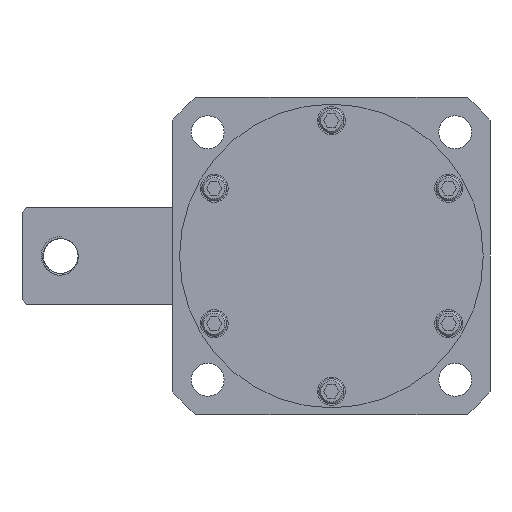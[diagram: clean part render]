
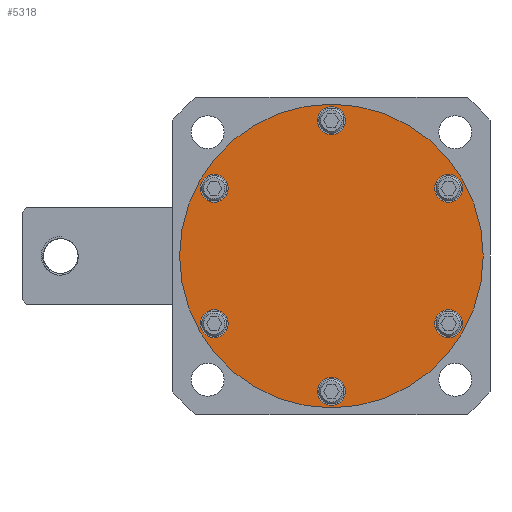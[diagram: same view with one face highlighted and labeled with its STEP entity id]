
A CAD part, left-side view. The second image highlights one B-rep face of the part: STEP entity #5318.
In plain terms, the highlighted planar face has unit normal (-1, 0, 0) as drawn and (0, 0, 1) by its records, which use the part's own axes.
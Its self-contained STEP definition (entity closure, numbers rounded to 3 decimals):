
#203=FACE_BOUND('',#760,.T.);
#204=FACE_BOUND('',#761,.T.);
#205=FACE_BOUND('',#762,.T.);
#206=FACE_BOUND('',#763,.T.);
#207=FACE_BOUND('',#764,.T.);
#208=FACE_BOUND('',#765,.T.);
#264=PLANE('',#5804);
#439=FACE_OUTER_BOUND('',#759,.T.);
#759=EDGE_LOOP('',(#4174,#4175));
#760=EDGE_LOOP('',(#4176));
#761=EDGE_LOOP('',(#4177));
#762=EDGE_LOOP('',(#4178));
#763=EDGE_LOOP('',(#4179));
#764=EDGE_LOOP('',(#4180));
#765=EDGE_LOOP('',(#4181));
#1055=CIRCLE('',#5805,39.25);
#1056=CIRCLE('',#5806,39.25);
#1057=CIRCLE('',#5807,3.6);
#1058=CIRCLE('',#5808,3.6);
#1059=CIRCLE('',#5809,3.6);
#1060=CIRCLE('',#5810,3.6);
#1061=CIRCLE('',#5811,3.6);
#1062=CIRCLE('',#5812,3.6);
#2322=VERTEX_POINT('',#22190);
#2323=VERTEX_POINT('',#22191);
#2324=VERTEX_POINT('',#22194);
#2325=VERTEX_POINT('',#22196);
#2326=VERTEX_POINT('',#22198);
#2327=VERTEX_POINT('',#22200);
#2328=VERTEX_POINT('',#22202);
#2329=VERTEX_POINT('',#22204);
#2991=EDGE_CURVE('',#2322,#2323,#1055,.T.);
#2992=EDGE_CURVE('',#2323,#2322,#1056,.T.);
#2993=EDGE_CURVE('',#2324,#2324,#1057,.T.);
#2994=EDGE_CURVE('',#2325,#2325,#1058,.T.);
#2995=EDGE_CURVE('',#2326,#2326,#1059,.T.);
#2996=EDGE_CURVE('',#2327,#2327,#1060,.T.);
#2997=EDGE_CURVE('',#2328,#2328,#1061,.T.);
#2998=EDGE_CURVE('',#2329,#2329,#1062,.T.);
#4174=ORIENTED_EDGE('',*,*,#2991,.T.);
#4175=ORIENTED_EDGE('',*,*,#2992,.T.);
#4176=ORIENTED_EDGE('',*,*,#2993,.T.);
#4177=ORIENTED_EDGE('',*,*,#2994,.T.);
#4178=ORIENTED_EDGE('',*,*,#2995,.T.);
#4179=ORIENTED_EDGE('',*,*,#2996,.T.);
#4180=ORIENTED_EDGE('',*,*,#2997,.T.);
#4181=ORIENTED_EDGE('',*,*,#2998,.T.);
#5318=ADVANCED_FACE('',(#439,#203,#204,#205,#206,#207,#208),#264,.F.);
#5804=AXIS2_PLACEMENT_3D('',#22189,#6578,#6579);
#5805=AXIS2_PLACEMENT_3D('',#22192,#6580,#6581);
#5806=AXIS2_PLACEMENT_3D('',#22193,#6582,#6583);
#5807=AXIS2_PLACEMENT_3D('',#22195,#6584,#6585);
#5808=AXIS2_PLACEMENT_3D('',#22197,#6586,#6587);
#5809=AXIS2_PLACEMENT_3D('',#22199,#6588,#6589);
#5810=AXIS2_PLACEMENT_3D('',#22201,#6590,#6591);
#5811=AXIS2_PLACEMENT_3D('',#22203,#6592,#6593);
#5812=AXIS2_PLACEMENT_3D('',#22205,#6594,#6595);
#6578=DIRECTION('center_axis',(0.,0.,-1.));
#6579=DIRECTION('ref_axis',(0.,-1.,0.));
#6580=DIRECTION('center_axis',(0.,0.,1.));
#6581=DIRECTION('ref_axis',(0.,-1.,0.));
#6582=DIRECTION('center_axis',(0.,0.,1.));
#6583=DIRECTION('ref_axis',(0.,-1.,0.));
#6584=DIRECTION('center_axis',(0.,0.,-1.));
#6585=DIRECTION('ref_axis',(-1.,0.,0.));
#6586=DIRECTION('center_axis',(0.,0.,-1.));
#6587=DIRECTION('ref_axis',(-0.5,0.866,0.));
#6588=DIRECTION('center_axis',(0.,0.,-1.));
#6589=DIRECTION('ref_axis',(0.5,0.866,0.));
#6590=DIRECTION('center_axis',(0.,0.,-1.));
#6591=DIRECTION('ref_axis',(1.,0.,0.));
#6592=DIRECTION('center_axis',(0.,0.,-1.));
#6593=DIRECTION('ref_axis',(0.5,-0.866,0.));
#6594=DIRECTION('center_axis',(0.,0.,-1.));
#6595=DIRECTION('ref_axis',(-0.5,-0.866,0.));
#22189=CARTESIAN_POINT('Origin',(0.,0.,0.));
#22190=CARTESIAN_POINT('',(0.,-39.25,0.));
#22191=CARTESIAN_POINT('',(0.,39.25,0.));
#22192=CARTESIAN_POINT('Origin',(0.,0.,0.));
#22193=CARTESIAN_POINT('Origin',(0.,0.,0.));
#22194=CARTESIAN_POINT('',(38.6,0.,0.));
#22195=CARTESIAN_POINT('Origin',(35.,0.,0.));
#22196=CARTESIAN_POINT('',(19.3,-33.429,0.));
#22197=CARTESIAN_POINT('Origin',(17.5,-30.311,0.));
#22198=CARTESIAN_POINT('',(-19.3,-33.429,0.));
#22199=CARTESIAN_POINT('Origin',(-17.5,-30.311,0.));
#22200=CARTESIAN_POINT('',(-38.6,0.,0.));
#22201=CARTESIAN_POINT('Origin',(-35.,0.,0.));
#22202=CARTESIAN_POINT('',(-19.3,33.429,0.));
#22203=CARTESIAN_POINT('Origin',(-17.5,30.311,0.));
#22204=CARTESIAN_POINT('',(19.3,33.429,0.));
#22205=CARTESIAN_POINT('Origin',(17.5,30.311,0.));
